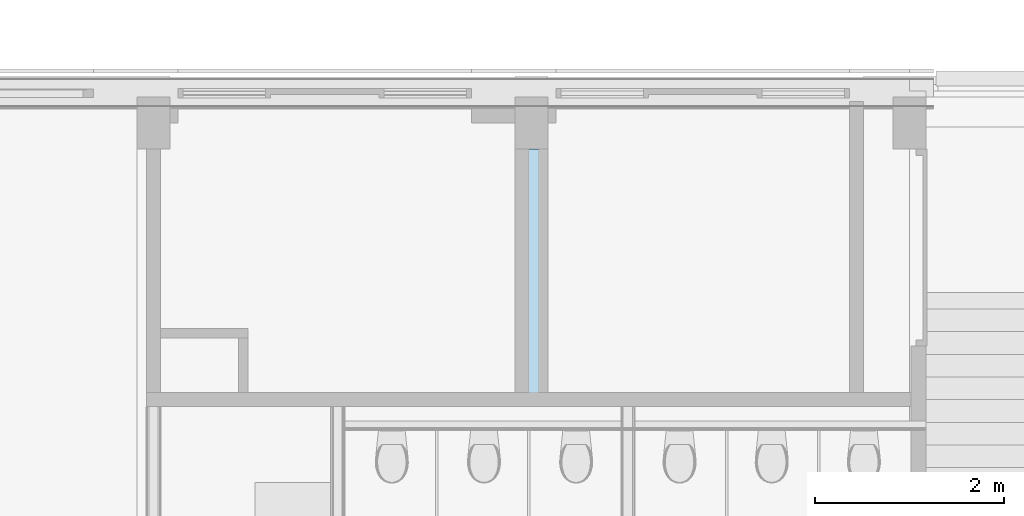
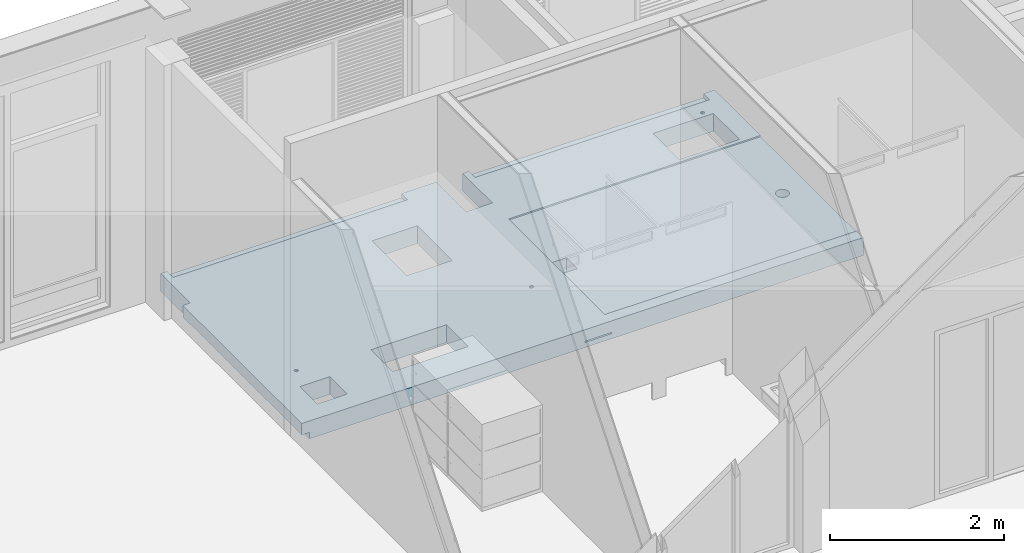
# One storey, part 16 of 109: 1 slab, 12 openings.
"""IFC2X3 building model written with IfcOpenShell, lengths in millimetres."""

from ifc_helpers import new_model, entity, si_unit, converted_unit, derived_unit, money_unit, direction, frame, origin_with_axes, place, context, subcontext, project, spatial, faceted_brep, material, type_object, element, save


model = new_model("IFC2X3")

# Units and contexts
model_context = context("Model", 3, precision=0.01, world=origin_with_axes(), true_north=direction((0.0, 1.0)))
body_context = subcontext(model_context, "Body", "Model", "MODEL_VIEW")
ifc_project = project(units=[si_unit("LENGTHUNIT", "METRE", prefix="MILLI"), si_unit("AREAUNIT", "SQUARE_METRE"), si_unit("VOLUMEUNIT", "CUBIC_METRE"), converted_unit("PLANEANGLEUNIT", "DEGREE", entity("IfcPlaneAngleMeasure", 0.0174532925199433), si_unit("PLANEANGLEUNIT", "RADIAN"), dimensions=[0, 0, 0, 0, 0, 0, 0]), money_unit("EUR"), converted_unit("TIMEUNIT", "Year", entity("IfcTimeMeasure", 31557600.0), si_unit("TIMEUNIT", "SECOND"), dimensions=[0, 0, 1, 0, 0, 0, 0]), si_unit("MASSUNIT", "GRAM", prefix="KILO"), si_unit("THERMODYNAMICTEMPERATUREUNIT", "DEGREE_CELSIUS"), si_unit("LUMINOUSINTENSITYUNIT", "LUMEN"), si_unit("ENERGYUNIT", "JOULE", prefix="MEGA"), derived_unit("THERMALCONDUCTANCEUNIT", [(si_unit("POWERUNIT", "WATT"), 1), (si_unit("LENGTHUNIT", "METRE"), -1), (si_unit("THERMODYNAMICTEMPERATUREUNIT", "KELVIN"), -1)]), derived_unit("SPECIFICHEATCAPACITYUNIT", [(si_unit("ENERGYUNIT", "JOULE"), 1), (si_unit("MASSUNIT", "GRAM", prefix="KILO"), -1), (si_unit("THERMODYNAMICTEMPERATUREUNIT", "KELVIN"), -1)]), derived_unit("MASSDENSITYUNIT", [(si_unit("MASSUNIT", "GRAM", prefix="KILO"), 1), (si_unit("VOLUMEUNIT", "CUBIC_METRE"), -1)])], contexts=[model_context])

# Site, building, storey
site_placement = place(None, origin_with_axes())
site = spatial("IfcSite", under=ifc_project, at=site_placement, Name="<site naam>", CompositionType="ELEMENT")
building_placement = place(site_placement, origin_with_axes())
building = spatial("IfcBuilding", under=site, at=building_placement, Name="<Naam gebouw>", CompositionType="ELEMENT")
storey_placement = place(building_placement, origin_with_axes())
storey = spatial("IfcBuildingStorey", under=building, at=storey_placement, Name="00 Begane grond", CompositionType="ELEMENT", Elevation=0.0)

# Slab, openings
ifc_material = material(Name="beton_gewapend_vloer C")
slab_type = type_object("IfcSlabType", Name="beton_gewapend_vloer C  250", PredefinedType="NOTDEFINED")
slab_placement = place(storey_placement, frame((40075.00000000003, 16724.94983205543, 130.0), z_axis=(0.0, 0.0, 1.0), x_axis=(1.0, 0.0, 0.0)))
slab = element("IfcSlab", 1, at=slab_placement, inside=storey, type_object=slab_type, material=ifc_material, Name="23_Vloer_beton_gewapend_vloer", PredefinedType="NOTDEFINED", context=body_context, shape_type="Brep", body=[
    faceted_brep([(99.99999999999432, 2725.050184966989, -250.0), (99.99999999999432, 2725.050184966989, -160.0), (99.99995180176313, 2725.050184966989, 0.0), (99.99995180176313, 3410.050153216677, 0.0), (99.99995180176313, 3410.050153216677, -250.0), (99.99999999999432, 0.0, -250.0), (99.99999999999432, 0.0, -160.0), (0.0, 2725.050184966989, -160.0), (0.0, 2725.050184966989, 0.0), (0.0, 0.0, 0.0), (7437.884389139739, 0.0, 0.0), (7437.884389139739, 3410.050153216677, 0.0), (4100.000000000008, 3410.050153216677, 0.0), (4100.000000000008, 2725.050167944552, 0.0), (3750.000000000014, 2725.050106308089, 0.0), (3750.000000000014, 3410.050153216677, 0.0), (3750.000000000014, 3410.050153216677, -250.0), (3750.000000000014, 2725.050106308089, -250.0), (4100.000000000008, 2725.050167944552, -250.0), (4100.000000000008, 3410.050153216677, -250.0), (7437.884389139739, 3410.050153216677, -250.0), (7437.884389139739, 0.0, -250.0), (0.0, 0.0, -160.0), (4100.000000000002, 0.0, -180.0000000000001), (3750.000000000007, 0.0, -180.0000000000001), (3750.000000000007, 0.0, -160.0), (4100.000000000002, 0.0, -160.0), (4100.000000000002, 2725.050167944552, -180.0000000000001), (4100.000000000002, 2725.050167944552, -160.0), (3750.000000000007, 2725.050106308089, -160.0), (3750.000000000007, 2725.050106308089, -180.0000000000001)], [[[0, 1, 2, 3, 4]], [[1, 0, 5, 6]], [[1, 7, 8, 2]], [[3, 2, 8, 9, 10, 11, 12, 13, 14, 15]], [[4, 3, 15, 16]], [[5, 0, 4, 16, 17, 18, 19, 20, 21]], [[6, 5, 21, 10, 9, 22], [23, 24, 25, 26]], [[7, 1, 6, 22]], [[7, 22, 9, 8]], [[20, 11, 10, 21]], [[19, 12, 11, 20]], [[18, 27, 28, 13, 12, 19]], [[13, 28, 29, 14]], [[14, 29, 30, 17, 16, 15]], [[17, 30, 27, 18]], [[23, 27, 30, 24]], [[24, 30, 29, 25]], [[25, 29, 28, 26]], [[26, 28, 27, 23]]]),
])
opening_1_placement = place(slab_placement, frame((-40075.00000000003, -16724.94983205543, -130.0), z_axis=(0.0, 0.0, 1.0), x_axis=(1.0, 0.0, 0.0)))
element("IfcOpeningElement", 2, at=opening_1_placement, cuts=slab, Name="23_kruipluik_", context=body_context, shape_type="Brep", body=[
    faceted_brep([(42600.00000000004, 18684.95995398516, 380.0), (42600.00000000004, 19484.95995398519, 380.0), (42600.00000000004, 19484.95995398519, -370.0), (42600.00000000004, 18684.95995398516, -370.0), (43200.00000000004, 18684.95995398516, 380.0), (43200.00000000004, 19484.95995398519, 380.0), (43200.00000000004, 19484.95995398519, -370.0), (43200.00000000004, 18684.95995398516, -370.0)], [[[0, 1, 2, 3]], [[0, 4, 5, 1]], [[1, 5, 6, 2]], [[3, 2, 6, 7]], [[4, 0, 3, 7]], [[5, 4, 7, 6]]]),
])
opening_2_placement = place(slab_placement, frame((-40075.00000000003, -16724.94983205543, -130.0), z_axis=(0.0, 0.0, 1.0), x_axis=(1.0, 0.0, 0.0)))
element("IfcOpeningElement", 3, at=opening_2_placement, cuts=slab, Name="23_vloersparing_", context=body_context, shape_type="Brep", body=[
    faceted_brep([(41499.99999703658, 17104.94983321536, 380.0), (41499.99999703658, 17604.9498332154, 380.0), (41499.99999703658, 17604.9498332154, -370.0), (41499.99999703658, 17104.94983321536, -370.0), (42499.99999703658, 17104.94983321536, 380.0), (42499.99999703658, 17604.9498332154, 380.0), (42499.99999703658, 17604.9498332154, -370.0), (42499.99999703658, 17104.94983321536, -370.0)], [[[0, 1, 2, 3]], [[0, 4, 5, 1]], [[1, 5, 6, 2]], [[3, 2, 6, 7]], [[4, 0, 3, 7]], [[5, 4, 7, 6]]]),
])
opening_3_placement = place(slab_placement, frame((-40075.00000000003, -16724.94983205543, -130.0), z_axis=(0.0, 0.0, 1.0), x_axis=(1.0, 0.0, 0.0)))
element("IfcOpeningElement", 4, at=opening_3_placement, cuts=slab, Name="23_kelderluik_", context=body_context, shape_type="Brep", body=[
    faceted_brep([(46462.99904168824, 19134.04982472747, 380.0), (46462.99904168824, 19734.04982472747, 380.0), (46462.99904168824, 19734.04982472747, -370.0), (46462.99904168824, 19134.04982472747, -370.0), (47262.99904168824, 19134.04982472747, 380.0), (47262.99904168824, 19734.04982472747, 380.0), (47262.99904168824, 19734.04982472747, -370.0), (47262.99904168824, 19134.04982472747, -370.0)], [[[0, 1, 2, 3]], [[0, 4, 5, 1]], [[1, 5, 6, 2]], [[3, 2, 6, 7]], [[4, 0, 3, 7]], [[5, 4, 7, 6]]]),
])
opening_4_placement = place(slab_placement, frame((-40075.00000000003, -16724.94983205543, -130.0), z_axis=(0.0, 0.0, 1.0), x_axis=(1.0, 0.0, 0.0)))
element("IfcOpeningElement", 5, at=opening_4_placement, cuts=slab, Name="23_vloersparing_", context=body_context, shape_type="Brep", body=[
    faceted_brep([(40425.00001408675, 16974.94982513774, 380.0), (40425.00001408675, 17374.94982513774, 380.0), (40425.00001408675, 17374.94982513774, -370.0), (40425.00001408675, 16974.94982513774, -370.0), (40825.00001408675, 16974.94982513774, 380.0), (40825.00001408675, 17374.94982513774, 380.0), (40825.00001408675, 17374.94982513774, -370.0), (40825.00001408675, 16974.94982513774, -370.0)], [[[0, 1, 2, 3]], [[0, 4, 5, 1]], [[1, 5, 6, 2]], [[3, 2, 6, 7]], [[4, 0, 3, 7]], [[5, 4, 7, 6]]]),
])
opening_5_placement = place(slab_placement, frame((-40075.00000000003, -16724.94983205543, -130.0), z_axis=(0.0, 0.0, 1.0), x_axis=(1.0, 0.0, 0.0)))
element("IfcOpeningElement", 6, at=opening_5_placement, cuts=slab, Name="23_vloersparing_", context=body_context, shape_type="Brep", body=[
    faceted_brep([(47242.88437245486, 17974.94041759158, 380.0), (47242.88437245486, 17967.94132450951, 380.0), (47242.88437245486, 17967.94132450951, -370.0), (47242.88437245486, 17974.94041759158, -370.0), (47242.88437245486, 17981.93951067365, 380.0), (47240.45361293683, 17995.72503293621, 380.0), (47235.66595129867, 18008.87902517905, 380.0), (47228.66685821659, 18021.00181000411, 380.0), (47219.66899759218, 18031.7250427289, 380.0), (47208.94576486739, 18040.7229033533, 380.0), (47196.82298004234, 18047.72199643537, 380.0), (47183.66898779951, 18052.50965807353, 380.0), (47169.88346553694, 18054.94041759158, 380.0), (47162.88437245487, 18054.94041759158, 380.0), (47155.8852793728, 18054.94041759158, 380.0), (47142.09975711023, 18052.50965807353, 380.0), (47128.94576486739, 18047.72199643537, 380.0), (47116.82298004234, 18040.7229033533, 380.0), (47106.09974731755, 18031.7250427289, 380.0), (47097.10188669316, 18021.00181000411, 380.0), (47090.10279361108, 18008.87902517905, 380.0), (47085.31513197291, 17995.72503293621, 380.0), (47082.88437245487, 17981.93951067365, 380.0), (47082.88437245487, 17974.94041759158, 380.0), (47082.88437245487, 17967.94132450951, 380.0), (47085.31513197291, 17954.15580224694, 380.0), (47090.10279361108, 17941.00181000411, 380.0), (47097.10188669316, 17928.87902517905, 380.0), (47106.09974731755, 17918.15579245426, 380.0), (47116.82298004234, 17909.15793182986, 380.0), (47128.94576486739, 17902.15883874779, 380.0), (47142.09975711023, 17897.37117710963, 380.0), (47155.8852793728, 17894.94041759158, 380.0), (47162.88437245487, 17894.94041759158, 380.0), (47169.88346553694, 17894.94041759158, 380.0), (47183.66898779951, 17897.37117710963, 380.0), (47196.82298004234, 17902.15883874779, 380.0), (47208.94576486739, 17909.15793182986, 380.0), (47219.66899759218, 17918.15579245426, 380.0), (47228.66685821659, 17928.87902517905, 380.0), (47235.66595129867, 17941.00181000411, 380.0), (47240.45361293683, 17954.15580224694, 380.0), (47240.45361293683, 17954.15580224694, -370.0), (47235.66595129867, 17941.00181000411, -370.0), (47228.66685821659, 17928.87902517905, -370.0), (47219.66899759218, 17918.15579245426, -370.0), (47208.94576486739, 17909.15793182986, -370.0), (47196.82298004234, 17902.15883874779, -370.0), (47183.66898779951, 17897.37117710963, -370.0), (47169.88346553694, 17894.94041759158, -370.0), (47162.88437245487, 17894.94041759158, -370.0), (47155.8852793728, 17894.94041759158, -370.0), (47142.09975711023, 17897.37117710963, -370.0), (47128.94576486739, 17902.15883874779, -370.0), (47116.82298004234, 17909.15793182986, -370.0), (47106.09974731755, 17918.15579245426, -370.0), (47097.10188669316, 17928.87902517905, -370.0), (47090.10279361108, 17941.00181000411, -370.0), (47085.31513197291, 17954.15580224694, -370.0), (47082.88437245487, 17967.94132450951, -370.0), (47082.88437245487, 17974.94041759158, -370.0), (47082.88437245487, 17981.93951067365, -370.0), (47085.31513197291, 17995.72503293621, -370.0), (47090.10279361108, 18008.87902517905, -370.0), (47097.10188669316, 18021.00181000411, -370.0), (47106.09974731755, 18031.7250427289, -370.0), (47116.82298004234, 18040.7229033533, -370.0), (47128.94576486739, 18047.72199643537, -370.0), (47142.09975711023, 18052.50965807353, -370.0), (47155.8852793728, 18054.94041759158, -370.0), (47162.88437245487, 18054.94041759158, -370.0), (47169.88346553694, 18054.94041759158, -370.0), (47183.66898779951, 18052.50965807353, -370.0), (47196.82298004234, 18047.72199643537, -370.0), (47208.94576486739, 18040.7229033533, -370.0), (47219.66899759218, 18031.7250427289, -370.0), (47228.66685821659, 18021.00181000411, -370.0), (47235.66595129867, 18008.87902517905, -370.0), (47240.45361293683, 17995.72503293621, -370.0), (47242.88437245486, 17981.93951067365, -370.0)], [[[0, 1, 2, 3]], [[0, 4, 5, 6, 7, 8, 9, 10, 11, 12, 13, 14, 15, 16, 17, 18, 19, 20, 21, 22, 23, 24, 25, 26, 27, 28, 29, 30, 31, 32, 33, 34, 35, 36, 37, 38, 39, 40, 41, 1]], [[1, 41, 42, 2]], [[3, 2, 42, 43, 44, 45, 46, 47, 48, 49, 50, 51, 52, 53, 54, 55, 56, 57, 58, 59, 60, 61, 62, 63, 64, 65, 66, 67, 68, 69, 70, 71, 72, 73, 74, 75, 76, 77, 78, 79]], [[4, 0, 3, 79]], [[5, 4, 79, 78]], [[6, 5, 78, 77]], [[7, 6, 77, 76]], [[8, 7, 76, 75]], [[9, 8, 75, 74]], [[10, 9, 74, 73]], [[11, 10, 73, 72]], [[12, 11, 72, 71]], [[13, 12, 71, 70]], [[14, 13, 70, 69]], [[15, 14, 69, 68]], [[16, 15, 68, 67]], [[17, 16, 67, 66]], [[18, 17, 66, 65]], [[19, 18, 65, 64]], [[20, 19, 64, 63]], [[21, 20, 63, 62]], [[22, 21, 62, 61]], [[23, 22, 61, 60]], [[24, 23, 60, 59]], [[25, 24, 59, 58]], [[26, 25, 58, 57]], [[27, 26, 57, 56]], [[28, 27, 56, 55]], [[29, 28, 55, 54]], [[30, 29, 54, 53]], [[31, 30, 53, 52]], [[32, 31, 52, 51]], [[33, 32, 51, 50]], [[34, 33, 50, 49]], [[35, 34, 49, 48]], [[36, 35, 48, 47]], [[37, 36, 47, 46]], [[38, 37, 46, 45]], [[39, 38, 45, 44]], [[40, 39, 44, 43]], [[41, 40, 43, 42]]]),
])
opening_6_placement = place(slab_placement, frame((-40075.00000000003, -16724.94983205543, -130.0), z_axis=(0.0, 0.0, 1.0), x_axis=(1.0, 0.0, 0.0)))
element("IfcOpeningElement", 7, at=opening_6_placement, cuts=slab, Name="23_vloersparing_", context=body_context, shape_type="Brep", body=[
    faceted_brep([(47187.88437245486, 19809.04982141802, 380.0), (47187.88437245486, 19806.86260482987, 380.0), (47187.88437245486, 19806.86260482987, -370.0), (47187.88437245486, 19809.04982141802, -370.0), (47187.88437245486, 19811.23703800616, 380.0), (47187.12476010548, 19815.54501371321, 380.0), (47185.62861584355, 19819.6556362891, 380.0), (47183.44139925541, 19823.44400654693, 380.0), (47180.62956781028, 19826.79501677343, 380.0), (47177.27855758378, 19829.60684821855, 380.0), (47173.49018732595, 19831.7940648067, 380.0), (47169.37956475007, 19833.29020906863, 380.0), (47165.07158904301, 19834.04982141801, 380.0), (47162.88437245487, 19834.04982141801, 380.0), (47160.69715586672, 19834.04982141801, 380.0), (47156.38918015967, 19833.29020906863, 380.0), (47152.27855758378, 19831.7940648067, 380.0), (47148.49018732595, 19829.60684821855, 380.0), (47145.13917709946, 19826.79501677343, 380.0), (47142.32734565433, 19823.44400654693, 380.0), (47140.14012906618, 19819.6556362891, 380.0), (47138.64398480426, 19815.54501371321, 380.0), (47137.88437245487, 19811.23703800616, 380.0), (47137.88437245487, 19809.04982141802, 380.0), (47137.88437245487, 19806.86260482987, 380.0), (47138.64398480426, 19802.55462912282, 380.0), (47140.14012906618, 19798.44400654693, 380.0), (47142.32734565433, 19794.6556362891, 380.0), (47145.13917709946, 19791.3046260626, 380.0), (47148.49018732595, 19788.49279461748, 380.0), (47152.27855758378, 19786.30557802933, 380.0), (47156.38918015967, 19784.8094337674, 380.0), (47160.69715586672, 19784.04982141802, 380.0), (47162.88437245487, 19784.04982141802, 380.0), (47165.07158904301, 19784.04982141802, 380.0), (47169.37956475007, 19784.8094337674, 380.0), (47173.49018732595, 19786.30557802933, 380.0), (47177.27855758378, 19788.49279461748, 380.0), (47180.62956781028, 19791.3046260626, 380.0), (47183.44139925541, 19794.6556362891, 380.0), (47185.62861584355, 19798.44400654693, 380.0), (47187.12476010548, 19802.55462912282, 380.0), (47187.12476010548, 19802.55462912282, -370.0), (47185.62861584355, 19798.44400654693, -370.0), (47183.44139925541, 19794.6556362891, -370.0), (47180.62956781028, 19791.3046260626, -370.0), (47177.27855758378, 19788.49279461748, -370.0), (47173.49018732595, 19786.30557802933, -370.0), (47169.37956475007, 19784.8094337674, -370.0), (47165.07158904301, 19784.04982141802, -370.0), (47162.88437245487, 19784.04982141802, -370.0), (47160.69715586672, 19784.04982141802, -370.0), (47156.38918015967, 19784.8094337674, -370.0), (47152.27855758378, 19786.30557802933, -370.0), (47148.49018732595, 19788.49279461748, -370.0), (47145.13917709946, 19791.3046260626, -370.0), (47142.32734565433, 19794.6556362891, -370.0), (47140.14012906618, 19798.44400654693, -370.0), (47138.64398480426, 19802.55462912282, -370.0), (47137.88437245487, 19806.86260482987, -370.0), (47137.88437245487, 19809.04982141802, -370.0), (47137.88437245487, 19811.23703800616, -370.0), (47138.64398480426, 19815.54501371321, -370.0), (47140.14012906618, 19819.6556362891, -370.0), (47142.32734565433, 19823.44400654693, -370.0), (47145.13917709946, 19826.79501677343, -370.0), (47148.49018732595, 19829.60684821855, -370.0), (47152.27855758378, 19831.7940648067, -370.0), (47156.38918015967, 19833.29020906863, -370.0), (47160.69715586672, 19834.04982141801, -370.0), (47162.88437245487, 19834.04982141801, -370.0), (47165.07158904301, 19834.04982141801, -370.0), (47169.37956475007, 19833.29020906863, -370.0), (47173.49018732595, 19831.7940648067, -370.0), (47177.27855758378, 19829.60684821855, -370.0), (47180.62956781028, 19826.79501677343, -370.0), (47183.44139925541, 19823.44400654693, -370.0), (47185.62861584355, 19819.6556362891, -370.0), (47187.12476010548, 19815.54501371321, -370.0), (47187.88437245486, 19811.23703800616, -370.0)], [[[0, 1, 2, 3]], [[0, 4, 5, 6, 7, 8, 9, 10, 11, 12, 13, 14, 15, 16, 17, 18, 19, 20, 21, 22, 23, 24, 25, 26, 27, 28, 29, 30, 31, 32, 33, 34, 35, 36, 37, 38, 39, 40, 41, 1]], [[1, 41, 42, 2]], [[3, 2, 42, 43, 44, 45, 46, 47, 48, 49, 50, 51, 52, 53, 54, 55, 56, 57, 58, 59, 60, 61, 62, 63, 64, 65, 66, 67, 68, 69, 70, 71, 72, 73, 74, 75, 76, 77, 78, 79]], [[4, 0, 3, 79]], [[5, 4, 79, 78]], [[6, 5, 78, 77]], [[7, 6, 77, 76]], [[8, 7, 76, 75]], [[9, 8, 75, 74]], [[10, 9, 74, 73]], [[11, 10, 73, 72]], [[12, 11, 72, 71]], [[13, 12, 71, 70]], [[14, 13, 70, 69]], [[15, 14, 69, 68]], [[16, 15, 68, 67]], [[17, 16, 67, 66]], [[18, 17, 66, 65]], [[19, 18, 65, 64]], [[20, 19, 64, 63]], [[21, 20, 63, 62]], [[22, 21, 62, 61]], [[23, 22, 61, 60]], [[24, 23, 60, 59]], [[25, 24, 59, 58]], [[26, 25, 58, 57]], [[27, 26, 57, 56]], [[28, 27, 56, 55]], [[29, 28, 55, 54]], [[30, 29, 54, 53]], [[31, 30, 53, 52]], [[32, 31, 52, 51]], [[33, 32, 51, 50]], [[34, 33, 50, 49]], [[35, 34, 49, 48]], [[36, 35, 48, 47]], [[37, 36, 47, 46]], [[38, 37, 46, 45]], [[39, 38, 45, 44]], [[40, 39, 44, 43]], [[41, 40, 43, 42]]]),
])
opening_7_placement = place(slab_placement, frame((-40075.00000000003, -16724.94983205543, -130.0), z_axis=(0.0, 0.0, 1.0), x_axis=(1.0, 0.0, 0.0)))
element("IfcOpeningElement", 8, at=opening_7_placement, cuts=slab, Name="23_kruipluik_", context=body_context, shape_type="Brep", body=[
    faceted_brep([(44175.00000000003, 17849.94041759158, 380.0), (44175.00000000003, 18099.94041759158, 380.0), (44175.00000000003, 18099.94041759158, -370.0), (44175.00000000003, 17849.94041759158, -370.0), (44375.00000000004, 17849.94041759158, 380.0), (44375.00000000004, 18099.94041759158, 380.0), (44375.00000000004, 18099.94041759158, -370.0), (44375.00000000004, 17849.94041759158, -370.0)], [[[0, 1, 2, 3]], [[0, 4, 5, 1]], [[1, 5, 6, 2]], [[3, 2, 6, 7]], [[4, 0, 3, 7]], [[5, 4, 7, 6]]]),
])
opening_8_placement = place(slab_placement, frame((-40075.00000000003, -16724.94983205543, -130.0), z_axis=(0.0, 0.0, 1.0), x_axis=(1.0, 0.0, 0.0)))
element("IfcOpeningElement", 9, at=opening_8_placement, cuts=slab, Name="23_vloersparing_", context=body_context, shape_type="Brep", body=[
    faceted_brep([(43750.00000000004, 17774.94984401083, 380.0), (43750.00000000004, 17772.76262742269, 380.0), (43750.00000000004, 17772.76262742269, -370.0), (43750.00000000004, 17774.94984401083, -370.0), (43750.00000000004, 17777.13706059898, 380.0), (43749.24038765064, 17781.44503630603, 380.0), (43747.74424338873, 17785.55565888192, 380.0), (43745.55702680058, 17789.34402913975, 380.0), (43742.74519535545, 17792.69503936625, 380.0), (43739.39418512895, 17795.50687081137, 380.0), (43735.60581487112, 17797.69408739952, 380.0), (43731.49519229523, 17799.19023166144, 380.0), (43727.18721658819, 17799.94984401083, 380.0), (43725.00000000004, 17799.94984401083, 380.0), (43722.81278341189, 17799.94984401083, 380.0), (43718.50480770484, 17799.19023166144, 380.0), (43714.39418512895, 17797.69408739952, 380.0), (43710.60581487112, 17795.50687081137, 380.0), (43707.25480464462, 17792.69503936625, 380.0), (43704.4429731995, 17789.34402913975, 380.0), (43702.25575661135, 17785.55565888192, 380.0), (43700.75961234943, 17781.44503630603, 380.0), (43700.00000000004, 17777.13706059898, 380.0), (43700.00000000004, 17774.94984401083, 380.0), (43700.00000000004, 17772.76262742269, 380.0), (43700.75961234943, 17768.45465171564, 380.0), (43702.25575661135, 17764.34402913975, 380.0), (43704.4429731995, 17760.55565888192, 380.0), (43707.25480464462, 17757.20464865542, 380.0), (43710.60581487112, 17754.3928172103, 380.0), (43714.39418512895, 17752.20560062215, 380.0), (43718.50480770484, 17750.70945636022, 380.0), (43722.81278341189, 17749.94984401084, 380.0), (43725.00000000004, 17749.94984401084, 380.0), (43727.18721658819, 17749.94984401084, 380.0), (43731.49519229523, 17750.70945636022, 380.0), (43735.60581487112, 17752.20560062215, 380.0), (43739.39418512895, 17754.3928172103, 380.0), (43742.74519535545, 17757.20464865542, 380.0), (43745.55702680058, 17760.55565888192, 380.0), (43747.74424338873, 17764.34402913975, 380.0), (43749.24038765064, 17768.45465171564, 380.0), (43749.24038765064, 17768.45465171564, -370.0), (43747.74424338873, 17764.34402913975, -370.0), (43745.55702680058, 17760.55565888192, -370.0), (43742.74519535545, 17757.20464865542, -370.0), (43739.39418512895, 17754.3928172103, -370.0), (43735.60581487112, 17752.20560062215, -370.0), (43731.49519229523, 17750.70945636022, -370.0), (43727.18721658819, 17749.94984401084, -370.0), (43725.00000000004, 17749.94984401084, -370.0), (43722.81278341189, 17749.94984401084, -370.0), (43718.50480770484, 17750.70945636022, -370.0), (43714.39418512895, 17752.20560062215, -370.0), (43710.60581487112, 17754.3928172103, -370.0), (43707.25480464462, 17757.20464865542, -370.0), (43704.4429731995, 17760.55565888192, -370.0), (43702.25575661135, 17764.34402913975, -370.0), (43700.75961234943, 17768.45465171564, -370.0), (43700.00000000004, 17772.76262742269, -370.0), (43700.00000000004, 17774.94984401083, -370.0), (43700.00000000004, 17777.13706059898, -370.0), (43700.75961234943, 17781.44503630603, -370.0), (43702.25575661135, 17785.55565888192, -370.0), (43704.4429731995, 17789.34402913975, -370.0), (43707.25480464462, 17792.69503936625, -370.0), (43710.60581487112, 17795.50687081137, -370.0), (43714.39418512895, 17797.69408739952, -370.0), (43718.50480770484, 17799.19023166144, -370.0), (43722.81278341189, 17799.94984401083, -370.0), (43725.00000000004, 17799.94984401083, -370.0), (43727.18721658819, 17799.94984401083, -370.0), (43731.49519229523, 17799.19023166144, -370.0), (43735.60581487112, 17797.69408739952, -370.0), (43739.39418512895, 17795.50687081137, -370.0), (43742.74519535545, 17792.69503936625, -370.0), (43745.55702680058, 17789.34402913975, -370.0), (43747.74424338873, 17785.55565888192, -370.0), (43749.24038765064, 17781.44503630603, -370.0), (43750.00000000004, 17777.13706059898, -370.0)], [[[0, 1, 2, 3]], [[0, 4, 5, 6, 7, 8, 9, 10, 11, 12, 13, 14, 15, 16, 17, 18, 19, 20, 21, 22, 23, 24, 25, 26, 27, 28, 29, 30, 31, 32, 33, 34, 35, 36, 37, 38, 39, 40, 41, 1]], [[1, 41, 42, 2]], [[3, 2, 42, 43, 44, 45, 46, 47, 48, 49, 50, 51, 52, 53, 54, 55, 56, 57, 58, 59, 60, 61, 62, 63, 64, 65, 66, 67, 68, 69, 70, 71, 72, 73, 74, 75, 76, 77, 78, 79]], [[4, 0, 3, 79]], [[5, 4, 79, 78]], [[6, 5, 78, 77]], [[7, 6, 77, 76]], [[8, 7, 76, 75]], [[9, 8, 75, 74]], [[10, 9, 74, 73]], [[11, 10, 73, 72]], [[12, 11, 72, 71]], [[13, 12, 71, 70]], [[14, 13, 70, 69]], [[15, 14, 69, 68]], [[16, 15, 68, 67]], [[17, 16, 67, 66]], [[18, 17, 66, 65]], [[19, 18, 65, 64]], [[20, 19, 64, 63]], [[21, 20, 63, 62]], [[22, 21, 62, 61]], [[23, 22, 61, 60]], [[24, 23, 60, 59]], [[25, 24, 59, 58]], [[26, 25, 58, 57]], [[27, 26, 57, 56]], [[28, 27, 56, 55]], [[29, 28, 55, 54]], [[30, 29, 54, 53]], [[31, 30, 53, 52]], [[32, 31, 52, 51]], [[33, 32, 51, 50]], [[34, 33, 50, 49]], [[35, 34, 49, 48]], [[36, 35, 48, 47]], [[37, 36, 47, 46]], [[38, 37, 46, 45]], [[39, 38, 45, 44]], [[40, 39, 44, 43]], [[41, 40, 43, 42]]]),
])
opening_9_placement = place(slab_placement, frame((-40075.00000000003, -16724.94983205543, -130.0), z_axis=(0.0, 0.0, 1.0), x_axis=(1.0, 0.0, 0.0)))
element("IfcOpeningElement", 10, at=opening_9_placement, cuts=slab, Name="23_pompput_", context=body_context, shape_type="Brep", body=[
    faceted_brep([(44260.00000000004, 19991.99999999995, 130.0), (44260.00000000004, 20134.9999852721, 130.0), (44260.00000000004, 20134.9999852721, 73.00000000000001), (44260.00000000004, 19991.99999999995, 73.00000000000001), (47364.00000000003, 19991.99999999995, 130.0), (47364.00000000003, 20134.9999852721, 130.0), (47364.00000000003, 20134.9999852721, 73.00000000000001), (47364.00000000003, 19991.99999999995, 73.00000000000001)], [[[0, 1, 2, 3]], [[0, 4, 5, 1]], [[1, 5, 6, 2]], [[3, 2, 6, 7]], [[4, 0, 3, 7]], [[5, 4, 7, 6]]]),
])
opening_10_placement = place(slab_placement, frame((-40075.00000000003, -16724.94983205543, -130.0), z_axis=(0.0, 0.0, 1.0), x_axis=(1.0, 0.0, 0.0)))
element("IfcOpeningElement", 11, at=opening_10_placement, cuts=slab, Name="23_pompput_", context=body_context, shape_type="Brep", body=[
    faceted_brep([(40261.0009578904, 19991.99999999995, 130.0), (40261.0009578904, 20134.9999852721, 130.0), (40261.0009578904, 20134.9999852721, 73.00000000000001), (40261.0009578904, 19991.99999999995, 73.00000000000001), (43365.0009578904, 19991.99999999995, 130.0), (43365.0009578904, 20134.9999852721, 130.0), (43365.0009578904, 20134.9999852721, 73.00000000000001), (43365.0009578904, 19991.99999999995, 73.00000000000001)], [[[0, 1, 2, 3]], [[0, 4, 5, 1]], [[1, 5, 6, 2]], [[3, 2, 6, 7]], [[4, 0, 3, 7]], [[5, 4, 7, 6]]]),
])
opening_11_placement = place(slab_placement, frame((-40075.00000000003, -16724.94983205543, -130.0), z_axis=(0.0, 0.0, 1.0), x_axis=(1.0, 0.0, 0.0)))
element("IfcOpeningElement", 12, at=opening_11_placement, cuts=slab, Name="23_pompput_", context=body_context, shape_type="Brep", body=[
    faceted_brep([(44174.99995291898, 16874.94986392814, 130.0), (44174.99995291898, 19083.04986392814, 130.0), (44174.99995291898, 19083.04986392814, 112.0), (44174.99995291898, 16874.94986392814, 112.0), (47512.99904194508, 16874.94986392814, 130.0), (47512.99904194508, 19083.04986392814, 130.0), (47512.99904194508, 19083.04986392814, 112.0), (47512.99904194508, 16874.94986392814, 112.0)], [[[0, 1, 2, 3]], [[0, 4, 5, 1]], [[1, 5, 6, 2]], [[3, 2, 6, 7]], [[4, 0, 3, 7]], [[5, 4, 7, 6]]]),
])
opening_12_placement = place(slab_placement, frame((-40075.00000000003, -16724.94983205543, -130.0), z_axis=(0.0, 0.0, 1.0), x_axis=(1.0, 0.0, 0.0)))
element("IfcOpeningElement", 13, at=opening_12_placement, cuts=slab, Name="23_vloersparing_", context=body_context, shape_type="Brep", body=[
    faceted_brep([(40575.00000858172, 17674.94984401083, 380.0), (40575.00000858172, 17672.76262742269, 380.0), (40575.00000858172, 17672.76262742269, -370.0), (40575.00000858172, 17674.94984401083, -370.0), (40575.00000858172, 17677.13706059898, 380.0), (40574.24039623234, 17681.44503630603, 380.0), (40572.74425197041, 17685.55565888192, 380.0), (40570.55703538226, 17689.34402913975, 380.0), (40567.74520393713, 17692.69503936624, 380.0), (40564.39419371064, 17695.50687081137, 380.0), (40560.60582345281, 17697.69408739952, 380.0), (40556.49520087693, 17699.19023166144, 380.0), (40552.18722516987, 17699.94984401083, 380.0), (40550.00000858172, 17699.94984401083, 380.0), (40547.81279199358, 17699.94984401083, 380.0), (40543.50481628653, 17699.19023166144, 380.0), (40539.39419371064, 17697.69408739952, 380.0), (40535.60582345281, 17695.50687081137, 380.0), (40532.25481322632, 17692.69503936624, 380.0), (40529.44298178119, 17689.34402913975, 380.0), (40527.25576519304, 17685.55565888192, 380.0), (40525.75962093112, 17681.44503630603, 380.0), (40525.00000858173, 17677.13706059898, 380.0), (40525.00000858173, 17674.94984401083, 380.0), (40525.00000858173, 17672.76262742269, 380.0), (40525.75962093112, 17668.45465171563, 380.0), (40527.25576519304, 17664.34402913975, 380.0), (40529.44298178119, 17660.55565888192, 380.0), (40532.25481322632, 17657.20464865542, 380.0), (40535.60582345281, 17654.3928172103, 380.0), (40539.39419371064, 17652.20560062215, 380.0), (40543.50481628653, 17650.70945636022, 380.0), (40547.81279199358, 17649.94984401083, 380.0), (40550.00000858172, 17649.94984401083, 380.0), (40552.18722516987, 17649.94984401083, 380.0), (40556.49520087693, 17650.70945636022, 380.0), (40560.60582345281, 17652.20560062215, 380.0), (40564.39419371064, 17654.3928172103, 380.0), (40567.74520393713, 17657.20464865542, 380.0), (40570.55703538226, 17660.55565888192, 380.0), (40572.74425197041, 17664.34402913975, 380.0), (40574.24039623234, 17668.45465171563, 380.0), (40574.24039623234, 17668.45465171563, -370.0), (40572.74425197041, 17664.34402913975, -370.0), (40570.55703538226, 17660.55565888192, -370.0), (40567.74520393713, 17657.20464865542, -370.0), (40564.39419371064, 17654.3928172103, -370.0), (40560.60582345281, 17652.20560062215, -370.0), (40556.49520087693, 17650.70945636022, -370.0), (40552.18722516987, 17649.94984401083, -370.0), (40550.00000858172, 17649.94984401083, -370.0), (40547.81279199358, 17649.94984401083, -370.0), (40543.50481628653, 17650.70945636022, -370.0), (40539.39419371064, 17652.20560062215, -370.0), (40535.60582345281, 17654.3928172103, -370.0), (40532.25481322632, 17657.20464865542, -370.0), (40529.44298178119, 17660.55565888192, -370.0), (40527.25576519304, 17664.34402913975, -370.0), (40525.75962093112, 17668.45465171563, -370.0), (40525.00000858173, 17672.76262742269, -370.0), (40525.00000858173, 17674.94984401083, -370.0), (40525.00000858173, 17677.13706059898, -370.0), (40525.75962093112, 17681.44503630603, -370.0), (40527.25576519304, 17685.55565888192, -370.0), (40529.44298178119, 17689.34402913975, -370.0), (40532.25481322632, 17692.69503936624, -370.0), (40535.60582345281, 17695.50687081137, -370.0), (40539.39419371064, 17697.69408739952, -370.0), (40543.50481628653, 17699.19023166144, -370.0), (40547.81279199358, 17699.94984401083, -370.0), (40550.00000858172, 17699.94984401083, -370.0), (40552.18722516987, 17699.94984401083, -370.0), (40556.49520087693, 17699.19023166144, -370.0), (40560.60582345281, 17697.69408739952, -370.0), (40564.39419371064, 17695.50687081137, -370.0), (40567.74520393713, 17692.69503936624, -370.0), (40570.55703538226, 17689.34402913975, -370.0), (40572.74425197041, 17685.55565888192, -370.0), (40574.24039623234, 17681.44503630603, -370.0), (40575.00000858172, 17677.13706059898, -370.0)], [[[0, 1, 2, 3]], [[0, 4, 5, 6, 7, 8, 9, 10, 11, 12, 13, 14, 15, 16, 17, 18, 19, 20, 21, 22, 23, 24, 25, 26, 27, 28, 29, 30, 31, 32, 33, 34, 35, 36, 37, 38, 39, 40, 41, 1]], [[1, 41, 42, 2]], [[3, 2, 42, 43, 44, 45, 46, 47, 48, 49, 50, 51, 52, 53, 54, 55, 56, 57, 58, 59, 60, 61, 62, 63, 64, 65, 66, 67, 68, 69, 70, 71, 72, 73, 74, 75, 76, 77, 78, 79]], [[4, 0, 3, 79]], [[5, 4, 79, 78]], [[6, 5, 78, 77]], [[7, 6, 77, 76]], [[8, 7, 76, 75]], [[9, 8, 75, 74]], [[10, 9, 74, 73]], [[11, 10, 73, 72]], [[12, 11, 72, 71]], [[13, 12, 71, 70]], [[14, 13, 70, 69]], [[15, 14, 69, 68]], [[16, 15, 68, 67]], [[17, 16, 67, 66]], [[18, 17, 66, 65]], [[19, 18, 65, 64]], [[20, 19, 64, 63]], [[21, 20, 63, 62]], [[22, 21, 62, 61]], [[23, 22, 61, 60]], [[24, 23, 60, 59]], [[25, 24, 59, 58]], [[26, 25, 58, 57]], [[27, 26, 57, 56]], [[28, 27, 56, 55]], [[29, 28, 55, 54]], [[30, 29, 54, 53]], [[31, 30, 53, 52]], [[32, 31, 52, 51]], [[33, 32, 51, 50]], [[34, 33, 50, 49]], [[35, 34, 49, 48]], [[36, 35, 48, 47]], [[37, 36, 47, 46]], [[38, 37, 46, 45]], [[39, 38, 45, 44]], [[40, 39, 44, 43]], [[41, 40, 43, 42]]]),
])

save(model, "model.ifc")
